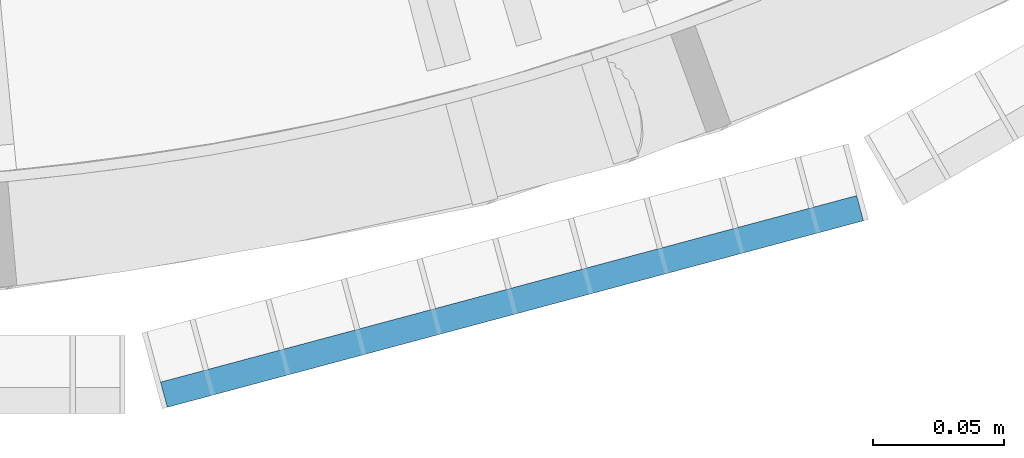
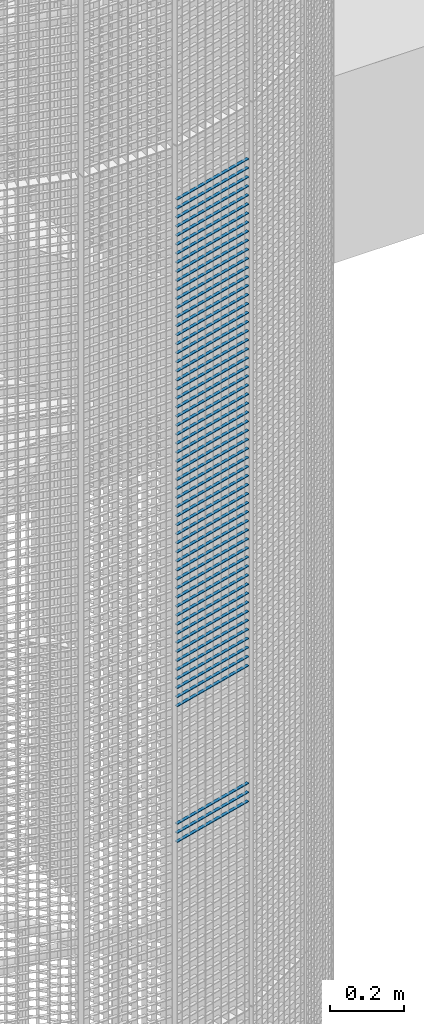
# One storey, part 396 of 1148: 60 beams, 1 element without a shape of its own.
"""IFC2X3 building model written with IfcOpenShell, lengths in millimetres."""

from ifc_helpers import new_model, si_unit, frame, origin_with_axes, origin_2d_with_axis, place, context, subcontext, project, spatial, rectangle, extrude, material, type_object, element, aggregate, save


model = new_model("IFC2X3")

# Units and contexts
model_context = context("Model", 3, precision=1e-05, world=origin_with_axes())
body_context = subcontext(model_context, "Body", "Model", "MODEL_VIEW")
ifc_project = project(units=[si_unit("LENGTHUNIT", "METRE", prefix="MILLI"), si_unit("AREAUNIT", "SQUARE_METRE"), si_unit("VOLUMEUNIT", "CUBIC_METRE"), si_unit("MASSUNIT", "GRAM", prefix="KILO"), si_unit("TIMEUNIT", "SECOND"), si_unit("PLANEANGLEUNIT", "RADIAN"), si_unit("SOLIDANGLEUNIT", "STERADIAN"), si_unit("THERMODYNAMICTEMPERATUREUNIT", "DEGREE_CELSIUS"), si_unit("LUMINOUSINTENSITYUNIT", "LUMEN")], contexts=[model_context])

# Site, building, storey
site_placement = place(None, origin_with_axes())
site = spatial("IfcSite", under=ifc_project, at=site_placement, Name="Undefined", CompositionType="ELEMENT")
building_placement = place(site_placement, origin_with_axes())
building = spatial("IfcBuilding", under=site, at=building_placement, Name="Undefined", CompositionType="ELEMENT")
storey_placement = place(building_placement, origin_with_axes())
storey = spatial("IfcBuildingStorey", under=building, at=storey_placement, Name="Undefined", CompositionType="ELEMENT", Elevation=0.0)

# Assembly, beams
assembly_placement = place(storey_placement, origin_with_axes())
assembly = element("IfcElementAssembly", 1, at=assembly_placement, inside=storey, Name="BORDURE", AssemblyPlace="NOTDEFINED", PredefinedType="NOTDEFINED")
ifc_material = material(Name="STEEL/S235JR")
beam_type = type_object("IfcBeamType", Name="PL2*10", PredefinedType="NOTDEFINED")
beam_1_placement = place(assembly_placement, frame((22021.4837339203, -1039.82309522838, 8820.0), z_axis=(0.258819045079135, -0.965925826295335, 0.0), x_axis=(-0.965925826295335, -0.258819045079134, 0.0)))
beam_1 = element("IfcBeam", 2, at=beam_1_placement, type_object=beam_type, material=ifc_material, Name="ENTRETOISE", context=body_context, shape_type="SweptSolid", body=[
    extrude(rectangle(XDim=2.0, YDim=10.0, at=origin_2d_with_axis()), frame((275.999999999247, 9.09494701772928e-13, 1.53210777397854e-14), z_axis=(-1.0, 0.0, 0.0), x_axis=(0.0, -1.0, 0.0)), (0.0, 0.0, 1.0), 276.0),
])
beam_2_placement = place(assembly_placement, frame((22021.4837339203, -1039.82309522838, 8790.0), z_axis=(0.258819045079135, -0.965925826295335, 0.0), x_axis=(-0.965925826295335, -0.258819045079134, 0.0)))
beam_2 = element("IfcBeam", 3, at=beam_2_placement, type_object=beam_type, material=ifc_material, Name="ENTRETOISE", context=body_context, shape_type="SweptSolid", body=[
    extrude(rectangle(XDim=2.0, YDim=10.0, at=origin_2d_with_axis()), frame((275.999999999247, 9.09494701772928e-13, 1.53210777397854e-14), z_axis=(-1.0, 0.0, 0.0), x_axis=(0.0, -1.0, 0.0)), (0.0, 0.0, 1.0), 276.0),
])
beam_3_placement = place(assembly_placement, frame((22021.4837339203, -1039.82309522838, 8760.0), z_axis=(0.258819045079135, -0.965925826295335, 0.0), x_axis=(-0.965925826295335, -0.258819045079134, 0.0)))
beam_3 = element("IfcBeam", 4, at=beam_3_placement, type_object=beam_type, material=ifc_material, Name="ENTRETOISE", context=body_context, shape_type="SweptSolid", body=[
    extrude(rectangle(XDim=2.0, YDim=10.0, at=origin_2d_with_axis()), frame((275.999999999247, 9.09494701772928e-13, 1.53210777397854e-14), z_axis=(-1.0, 0.0, 0.0), x_axis=(0.0, -1.0, 0.0)), (0.0, 0.0, 1.0), 276.0),
])
beam_4_placement = place(assembly_placement, frame((22021.4837339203, -1039.82309522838, 8730.0), z_axis=(0.258819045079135, -0.965925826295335, 0.0), x_axis=(-0.965925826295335, -0.258819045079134, 0.0)))
beam_4 = element("IfcBeam", 5, at=beam_4_placement, type_object=beam_type, material=ifc_material, Name="ENTRETOISE", context=body_context, shape_type="SweptSolid", body=[
    extrude(rectangle(XDim=2.0, YDim=10.0, at=origin_2d_with_axis()), frame((275.999999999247, 9.09494701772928e-13, 1.53210777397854e-14), z_axis=(-1.0, 0.0, 0.0), x_axis=(0.0, -1.0, 0.0)), (0.0, 0.0, 1.0), 276.0),
])
beam_5_placement = place(assembly_placement, frame((22021.4837339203, -1039.82309522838, 8700.0), z_axis=(0.258819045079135, -0.965925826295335, 0.0), x_axis=(-0.965925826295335, -0.258819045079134, 0.0)))
beam_5 = element("IfcBeam", 6, at=beam_5_placement, type_object=beam_type, material=ifc_material, Name="ENTRETOISE", context=body_context, shape_type="SweptSolid", body=[
    extrude(rectangle(XDim=2.0, YDim=10.0, at=origin_2d_with_axis()), frame((275.999999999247, 9.09494701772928e-13, 1.53210777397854e-14), z_axis=(-1.0, 0.0, 0.0), x_axis=(0.0, -1.0, 0.0)), (0.0, 0.0, 1.0), 276.0),
])
beam_6_placement = place(assembly_placement, frame((22021.4837339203, -1039.82309522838, 8670.0), z_axis=(0.258819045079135, -0.965925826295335, 0.0), x_axis=(-0.965925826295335, -0.258819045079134, 0.0)))
beam_6 = element("IfcBeam", 7, at=beam_6_placement, type_object=beam_type, material=ifc_material, Name="ENTRETOISE", context=body_context, shape_type="SweptSolid", body=[
    extrude(rectangle(XDim=2.0, YDim=10.0, at=origin_2d_with_axis()), frame((275.999999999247, 9.09494701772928e-13, 1.53210777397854e-14), z_axis=(-1.0, 0.0, 0.0), x_axis=(0.0, -1.0, 0.0)), (0.0, 0.0, 1.0), 276.0),
])
beam_7_placement = place(assembly_placement, frame((22021.4837339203, -1039.82309522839, 8640.0), z_axis=(0.258819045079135, -0.965925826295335, 0.0), x_axis=(-0.965925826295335, -0.258819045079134, 0.0)))
beam_7 = element("IfcBeam", 8, at=beam_7_placement, type_object=beam_type, material=ifc_material, Name="ENTRETOISE", context=body_context, shape_type="SweptSolid", body=[
    extrude(rectangle(XDim=2.0, YDim=10.0, at=origin_2d_with_axis()), frame((275.999999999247, 9.09494701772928e-13, 1.53210777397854e-14), z_axis=(-1.0, 0.0, 0.0), x_axis=(0.0, -1.0, 0.0)), (0.0, 0.0, 1.0), 276.0),
])
beam_8_placement = place(assembly_placement, frame((22021.4837339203, -1039.82309522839, 8610.0), z_axis=(0.258819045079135, -0.965925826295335, 0.0), x_axis=(-0.965925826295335, -0.258819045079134, 0.0)))
beam_8 = element("IfcBeam", 9, at=beam_8_placement, type_object=beam_type, material=ifc_material, Name="ENTRETOISE", context=body_context, shape_type="SweptSolid", body=[
    extrude(rectangle(XDim=2.0, YDim=10.0, at=origin_2d_with_axis()), frame((275.999999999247, 9.09494701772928e-13, 1.53210777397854e-14), z_axis=(-1.0, 0.0, 0.0), x_axis=(0.0, -1.0, 0.0)), (0.0, 0.0, 1.0), 276.0),
])
beam_9_placement = place(assembly_placement, frame((22021.4837339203, -1039.82309522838, 8580.0), z_axis=(0.258819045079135, -0.965925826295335, 0.0), x_axis=(-0.965925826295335, -0.258819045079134, 0.0)))
beam_9 = element("IfcBeam", 10, at=beam_9_placement, type_object=beam_type, material=ifc_material, Name="ENTRETOISE", context=body_context, shape_type="SweptSolid", body=[
    extrude(rectangle(XDim=2.0, YDim=10.0, at=origin_2d_with_axis()), frame((275.999999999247, 9.09494701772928e-13, 1.53210777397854e-14), z_axis=(-1.0, 0.0, 0.0), x_axis=(0.0, -1.0, 0.0)), (0.0, 0.0, 1.0), 276.0),
])
beam_10_placement = place(assembly_placement, frame((22021.4837339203, -1039.82309522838, 8550.0), z_axis=(0.258819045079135, -0.965925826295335, 0.0), x_axis=(-0.965925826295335, -0.258819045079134, 0.0)))
beam_10 = element("IfcBeam", 11, at=beam_10_placement, type_object=beam_type, material=ifc_material, Name="ENTRETOISE", context=body_context, shape_type="SweptSolid", body=[
    extrude(rectangle(XDim=2.0, YDim=10.0, at=origin_2d_with_axis()), frame((275.999999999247, 9.09494701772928e-13, 1.53210777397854e-14), z_axis=(-1.0, 0.0, 0.0), x_axis=(0.0, -1.0, 0.0)), (0.0, 0.0, 1.0), 276.0),
])
beam_11_placement = place(assembly_placement, frame((22021.4837339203, -1039.82309522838, 8520.0), z_axis=(0.258819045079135, -0.965925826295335, 0.0), x_axis=(-0.965925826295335, -0.258819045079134, 0.0)))
beam_11 = element("IfcBeam", 12, at=beam_11_placement, type_object=beam_type, material=ifc_material, Name="ENTRETOISE", context=body_context, shape_type="SweptSolid", body=[
    extrude(rectangle(XDim=2.0, YDim=10.0, at=origin_2d_with_axis()), frame((275.999999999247, 9.09494701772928e-13, 1.53210777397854e-14), z_axis=(-1.0, 0.0, 0.0), x_axis=(0.0, -1.0, 0.0)), (0.0, 0.0, 1.0), 276.0),
])
beam_12_placement = place(assembly_placement, frame((22021.4837339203, -1039.82309522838, 8490.0), z_axis=(0.258819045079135, -0.965925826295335, 0.0), x_axis=(-0.965925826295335, -0.258819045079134, 0.0)))
beam_12 = element("IfcBeam", 13, at=beam_12_placement, type_object=beam_type, material=ifc_material, Name="ENTRETOISE", context=body_context, shape_type="SweptSolid", body=[
    extrude(rectangle(XDim=2.0, YDim=10.0, at=origin_2d_with_axis()), frame((275.999999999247, 9.09494701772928e-13, 1.53210777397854e-14), z_axis=(-1.0, 0.0, 0.0), x_axis=(0.0, -1.0, 0.0)), (0.0, 0.0, 1.0), 276.0),
])
beam_13_placement = place(assembly_placement, frame((22021.4837339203, -1039.82309522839, 8460.0), z_axis=(0.258819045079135, -0.965925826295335, 0.0), x_axis=(-0.965925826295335, -0.258819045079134, 0.0)))
beam_13 = element("IfcBeam", 14, at=beam_13_placement, type_object=beam_type, material=ifc_material, Name="ENTRETOISE", context=body_context, shape_type="SweptSolid", body=[
    extrude(rectangle(XDim=2.0, YDim=10.0, at=origin_2d_with_axis()), frame((275.999999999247, 9.09494701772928e-13, 1.53210777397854e-14), z_axis=(-1.0, 0.0, 0.0), x_axis=(0.0, -1.0, 0.0)), (0.0, 0.0, 1.0), 276.0),
])
beam_14_placement = place(assembly_placement, frame((22021.4837339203, -1039.82309522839, 8430.0), z_axis=(0.258819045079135, -0.965925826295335, 0.0), x_axis=(-0.965925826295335, -0.258819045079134, 0.0)))
beam_14 = element("IfcBeam", 15, at=beam_14_placement, type_object=beam_type, material=ifc_material, Name="ENTRETOISE", context=body_context, shape_type="SweptSolid", body=[
    extrude(rectangle(XDim=2.0, YDim=10.0, at=origin_2d_with_axis()), frame((275.999999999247, 9.09494701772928e-13, 1.53210777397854e-14), z_axis=(-1.0, 0.0, 0.0), x_axis=(0.0, -1.0, 0.0)), (0.0, 0.0, 1.0), 276.0),
])
beam_15_placement = place(assembly_placement, frame((22021.4837339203, -1039.82309522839, 8400.0), z_axis=(0.258819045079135, -0.965925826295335, 0.0), x_axis=(-0.965925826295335, -0.258819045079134, 0.0)))
beam_15 = element("IfcBeam", 16, at=beam_15_placement, type_object=beam_type, material=ifc_material, Name="ENTRETOISE", context=body_context, shape_type="SweptSolid", body=[
    extrude(rectangle(XDim=2.0, YDim=10.0, at=origin_2d_with_axis()), frame((275.999999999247, 9.09494701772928e-13, 1.53210777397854e-14), z_axis=(-1.0, 0.0, 0.0), x_axis=(0.0, -1.0, 0.0)), (0.0, 0.0, 1.0), 276.0),
])
beam_16_placement = place(assembly_placement, frame((22021.4837339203, -1039.82309522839, 8370.0), z_axis=(0.258819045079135, -0.965925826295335, 0.0), x_axis=(-0.965925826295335, -0.258819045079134, 0.0)))
beam_16 = element("IfcBeam", 17, at=beam_16_placement, type_object=beam_type, material=ifc_material, Name="ENTRETOISE", context=body_context, shape_type="SweptSolid", body=[
    extrude(rectangle(XDim=2.0, YDim=10.0, at=origin_2d_with_axis()), frame((275.999999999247, 9.09494701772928e-13, 1.53210777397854e-14), z_axis=(-1.0, 0.0, 0.0), x_axis=(0.0, -1.0, 0.0)), (0.0, 0.0, 1.0), 276.0),
])
beam_17_placement = place(assembly_placement, frame((22021.4837339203, -1039.82309522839, 8340.0), z_axis=(0.258819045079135, -0.965925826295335, 0.0), x_axis=(-0.965925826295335, -0.258819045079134, 0.0)))
beam_17 = element("IfcBeam", 18, at=beam_17_placement, type_object=beam_type, material=ifc_material, Name="ENTRETOISE", context=body_context, shape_type="SweptSolid", body=[
    extrude(rectangle(XDim=2.0, YDim=10.0, at=origin_2d_with_axis()), frame((275.999999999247, 9.09494701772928e-13, 1.53210777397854e-14), z_axis=(-1.0, 0.0, 0.0), x_axis=(0.0, -1.0, 0.0)), (0.0, 0.0, 1.0), 276.0),
])
beam_18_placement = place(assembly_placement, frame((22021.4837339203, -1039.82309522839, 8310.0), z_axis=(0.258819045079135, -0.965925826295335, 0.0), x_axis=(-0.965925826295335, -0.258819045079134, 0.0)))
beam_18 = element("IfcBeam", 19, at=beam_18_placement, type_object=beam_type, material=ifc_material, Name="ENTRETOISE", context=body_context, shape_type="SweptSolid", body=[
    extrude(rectangle(XDim=2.0, YDim=10.0, at=origin_2d_with_axis()), frame((275.999999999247, 9.09494701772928e-13, 1.53210777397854e-14), z_axis=(-1.0, 0.0, 0.0), x_axis=(0.0, -1.0, 0.0)), (0.0, 0.0, 1.0), 276.0),
])
beam_19_placement = place(assembly_placement, frame((22021.4837339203, -1039.82309522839, 8280.0), z_axis=(0.258819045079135, -0.965925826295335, 0.0), x_axis=(-0.965925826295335, -0.258819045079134, 0.0)))
beam_19 = element("IfcBeam", 20, at=beam_19_placement, type_object=beam_type, material=ifc_material, Name="ENTRETOISE", context=body_context, shape_type="SweptSolid", body=[
    extrude(rectangle(XDim=2.0, YDim=10.0, at=origin_2d_with_axis()), frame((275.999999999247, 9.09494701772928e-13, 1.53210777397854e-14), z_axis=(-1.0, 0.0, 0.0), x_axis=(0.0, -1.0, 0.0)), (0.0, 0.0, 1.0), 276.0),
])
beam_20_placement = place(assembly_placement, frame((22021.4837339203, -1039.82309522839, 8250.0), z_axis=(0.258819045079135, -0.965925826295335, 0.0), x_axis=(-0.965925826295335, -0.258819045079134, 0.0)))
beam_20 = element("IfcBeam", 21, at=beam_20_placement, type_object=beam_type, material=ifc_material, Name="ENTRETOISE", context=body_context, shape_type="SweptSolid", body=[
    extrude(rectangle(XDim=2.0, YDim=10.0, at=origin_2d_with_axis()), frame((275.999999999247, 9.09494701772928e-13, 1.53210777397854e-14), z_axis=(-1.0, 0.0, 0.0), x_axis=(0.0, -1.0, 0.0)), (0.0, 0.0, 1.0), 276.0),
])
beam_21_placement = place(assembly_placement, frame((22021.4837339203, -1039.82309522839, 8220.0), z_axis=(0.258819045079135, -0.965925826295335, 0.0), x_axis=(-0.965925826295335, -0.258819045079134, 0.0)))
beam_21 = element("IfcBeam", 22, at=beam_21_placement, type_object=beam_type, material=ifc_material, Name="ENTRETOISE", context=body_context, shape_type="SweptSolid", body=[
    extrude(rectangle(XDim=2.0, YDim=10.0, at=origin_2d_with_axis()), frame((275.999999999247, 9.09494701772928e-13, 1.53210777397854e-14), z_axis=(-1.0, 0.0, 0.0), x_axis=(0.0, -1.0, 0.0)), (0.0, 0.0, 1.0), 276.0),
])
beam_22_placement = place(assembly_placement, frame((22021.4837339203, -1039.82309522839, 8190.0), z_axis=(0.258819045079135, -0.965925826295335, 0.0), x_axis=(-0.965925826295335, -0.258819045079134, 0.0)))
beam_22 = element("IfcBeam", 23, at=beam_22_placement, type_object=beam_type, material=ifc_material, Name="ENTRETOISE", context=body_context, shape_type="SweptSolid", body=[
    extrude(rectangle(XDim=2.0, YDim=10.0, at=origin_2d_with_axis()), frame((275.999999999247, 9.09494701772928e-13, 1.53210777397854e-14), z_axis=(-1.0, 0.0, 0.0), x_axis=(0.0, -1.0, 0.0)), (0.0, 0.0, 1.0), 276.0),
])
beam_23_placement = place(assembly_placement, frame((22021.4837339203, -1039.82309522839, 8160.0), z_axis=(0.258819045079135, -0.965925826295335, 0.0), x_axis=(-0.965925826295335, -0.258819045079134, 0.0)))
beam_23 = element("IfcBeam", 24, at=beam_23_placement, type_object=beam_type, material=ifc_material, Name="ENTRETOISE", context=body_context, shape_type="SweptSolid", body=[
    extrude(rectangle(XDim=2.0, YDim=10.0, at=origin_2d_with_axis()), frame((275.999999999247, 9.09494701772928e-13, 1.53210777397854e-14), z_axis=(-1.0, 0.0, 0.0), x_axis=(0.0, -1.0, 0.0)), (0.0, 0.0, 1.0), 276.0),
])
beam_24_placement = place(assembly_placement, frame((22021.4837339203, -1039.82309522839, 8130.0), z_axis=(0.258819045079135, -0.965925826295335, 0.0), x_axis=(-0.965925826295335, -0.258819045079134, 0.0)))
beam_24 = element("IfcBeam", 25, at=beam_24_placement, type_object=beam_type, material=ifc_material, Name="ENTRETOISE", context=body_context, shape_type="SweptSolid", body=[
    extrude(rectangle(XDim=2.0, YDim=10.0, at=origin_2d_with_axis()), frame((275.999999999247, 9.09494701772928e-13, 1.53210777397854e-14), z_axis=(-1.0, 0.0, 0.0), x_axis=(0.0, -1.0, 0.0)), (0.0, 0.0, 1.0), 276.0),
])
beam_25_placement = place(assembly_placement, frame((22021.4837339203, -1039.82309522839, 8100.0), z_axis=(0.258819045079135, -0.965925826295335, 0.0), x_axis=(-0.965925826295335, -0.258819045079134, 0.0)))
beam_25 = element("IfcBeam", 26, at=beam_25_placement, type_object=beam_type, material=ifc_material, Name="ENTRETOISE", context=body_context, shape_type="SweptSolid", body=[
    extrude(rectangle(XDim=2.0, YDim=10.0, at=origin_2d_with_axis()), frame((275.999999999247, 9.09494701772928e-13, 1.53210777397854e-14), z_axis=(-1.0, 0.0, 0.0), x_axis=(0.0, -1.0, 0.0)), (0.0, 0.0, 1.0), 276.0),
])
beam_26_placement = place(assembly_placement, frame((22021.4837339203, -1039.82309522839, 8070.0), z_axis=(0.258819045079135, -0.965925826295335, 0.0), x_axis=(-0.965925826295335, -0.258819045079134, 0.0)))
beam_26 = element("IfcBeam", 27, at=beam_26_placement, type_object=beam_type, material=ifc_material, Name="ENTRETOISE", context=body_context, shape_type="SweptSolid", body=[
    extrude(rectangle(XDim=2.0, YDim=10.0, at=origin_2d_with_axis()), frame((275.999999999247, 9.09494701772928e-13, 1.53210777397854e-14), z_axis=(-1.0, 0.0, 0.0), x_axis=(0.0, -1.0, 0.0)), (0.0, 0.0, 1.0), 276.0),
])
beam_27_placement = place(assembly_placement, frame((22021.4837339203, -1039.82309522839, 8040.0), z_axis=(0.258819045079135, -0.965925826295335, 0.0), x_axis=(-0.965925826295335, -0.258819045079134, 0.0)))
beam_27 = element("IfcBeam", 28, at=beam_27_placement, type_object=beam_type, material=ifc_material, Name="ENTRETOISE", context=body_context, shape_type="SweptSolid", body=[
    extrude(rectangle(XDim=2.0, YDim=10.0, at=origin_2d_with_axis()), frame((275.999999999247, 9.09494701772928e-13, 1.53210777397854e-14), z_axis=(-1.0, 0.0, 0.0), x_axis=(0.0, -1.0, 0.0)), (0.0, 0.0, 1.0), 276.0),
])
beam_28_placement = place(assembly_placement, frame((22021.4837339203, -1039.82309522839, 8010.0), z_axis=(0.258819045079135, -0.965925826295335, 0.0), x_axis=(-0.965925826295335, -0.258819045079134, 0.0)))
beam_28 = element("IfcBeam", 29, at=beam_28_placement, type_object=beam_type, material=ifc_material, Name="ENTRETOISE", context=body_context, shape_type="SweptSolid", body=[
    extrude(rectangle(XDim=2.0, YDim=10.0, at=origin_2d_with_axis()), frame((275.999999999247, 9.09494701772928e-13, 1.53210777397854e-14), z_axis=(-1.0, 0.0, 0.0), x_axis=(0.0, -1.0, 0.0)), (0.0, 0.0, 1.0), 276.0),
])
beam_29_placement = place(assembly_placement, frame((22021.4837339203, -1039.82309522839, 7980.0), z_axis=(0.258819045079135, -0.965925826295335, 0.0), x_axis=(-0.965925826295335, -0.258819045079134, 0.0)))
beam_29 = element("IfcBeam", 30, at=beam_29_placement, type_object=beam_type, material=ifc_material, Name="ENTRETOISE", context=body_context, shape_type="SweptSolid", body=[
    extrude(rectangle(XDim=2.0, YDim=10.0, at=origin_2d_with_axis()), frame((275.999999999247, 9.09494701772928e-13, 1.53210777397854e-14), z_axis=(-1.0, 0.0, 0.0), x_axis=(0.0, -1.0, 0.0)), (0.0, 0.0, 1.0), 276.0),
])
beam_30_placement = place(assembly_placement, frame((22021.4837339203, -1039.82309522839, 7950.0), z_axis=(0.258819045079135, -0.965925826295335, 0.0), x_axis=(-0.965925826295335, -0.258819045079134, 0.0)))
beam_30 = element("IfcBeam", 31, at=beam_30_placement, type_object=beam_type, material=ifc_material, Name="ENTRETOISE", context=body_context, shape_type="SweptSolid", body=[
    extrude(rectangle(XDim=2.0, YDim=10.0, at=origin_2d_with_axis()), frame((275.999999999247, 9.09494701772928e-13, 1.53210777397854e-14), z_axis=(-1.0, 0.0, 0.0), x_axis=(0.0, -1.0, 0.0)), (0.0, 0.0, 1.0), 276.0),
])
beam_31_placement = place(assembly_placement, frame((22021.4837339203, -1039.82309522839, 7920.0), z_axis=(0.258819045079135, -0.965925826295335, 0.0), x_axis=(-0.965925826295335, -0.258819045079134, 0.0)))
beam_31 = element("IfcBeam", 32, at=beam_31_placement, type_object=beam_type, material=ifc_material, Name="ENTRETOISE", context=body_context, shape_type="SweptSolid", body=[
    extrude(rectangle(XDim=2.0, YDim=10.0, at=origin_2d_with_axis()), frame((275.999999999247, 9.09494701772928e-13, 1.53210777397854e-14), z_axis=(-1.0, 0.0, 0.0), x_axis=(0.0, -1.0, 0.0)), (0.0, 0.0, 1.0), 276.0),
])
beam_32_placement = place(assembly_placement, frame((22021.4837339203, -1039.82309522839, 7890.0), z_axis=(0.258819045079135, -0.965925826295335, 0.0), x_axis=(-0.965925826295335, -0.258819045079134, 0.0)))
beam_32 = element("IfcBeam", 33, at=beam_32_placement, type_object=beam_type, material=ifc_material, Name="ENTRETOISE", context=body_context, shape_type="SweptSolid", body=[
    extrude(rectangle(XDim=2.0, YDim=10.0, at=origin_2d_with_axis()), frame((275.999999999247, 9.09494701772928e-13, 1.53210777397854e-14), z_axis=(-1.0, 0.0, 0.0), x_axis=(0.0, -1.0, 0.0)), (0.0, 0.0, 1.0), 276.0),
])
beam_33_placement = place(assembly_placement, frame((22021.4837339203, -1039.82309522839, 7860.0), z_axis=(0.258819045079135, -0.965925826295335, 0.0), x_axis=(-0.965925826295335, -0.258819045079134, 0.0)))
beam_33 = element("IfcBeam", 34, at=beam_33_placement, type_object=beam_type, material=ifc_material, Name="ENTRETOISE", context=body_context, shape_type="SweptSolid", body=[
    extrude(rectangle(XDim=2.0, YDim=10.0, at=origin_2d_with_axis()), frame((275.999999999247, 9.09494701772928e-13, 1.53210777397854e-14), z_axis=(-1.0, 0.0, 0.0), x_axis=(0.0, -1.0, 0.0)), (0.0, 0.0, 1.0), 276.0),
])
beam_34_placement = place(assembly_placement, frame((22021.4837339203, -1039.82309522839, 7830.0), z_axis=(0.258819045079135, -0.965925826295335, 0.0), x_axis=(-0.965925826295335, -0.258819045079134, 0.0)))
beam_34 = element("IfcBeam", 35, at=beam_34_placement, type_object=beam_type, material=ifc_material, Name="ENTRETOISE", context=body_context, shape_type="SweptSolid", body=[
    extrude(rectangle(XDim=2.0, YDim=10.0, at=origin_2d_with_axis()), frame((275.999999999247, 9.09494701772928e-13, 1.53210777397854e-14), z_axis=(-1.0, 0.0, 0.0), x_axis=(0.0, -1.0, 0.0)), (0.0, 0.0, 1.0), 276.0),
])
beam_35_placement = place(assembly_placement, frame((22021.4837339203, -1039.82309522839, 7800.0), z_axis=(0.258819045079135, -0.965925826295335, 0.0), x_axis=(-0.965925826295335, -0.258819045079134, 0.0)))
beam_35 = element("IfcBeam", 36, at=beam_35_placement, type_object=beam_type, material=ifc_material, Name="ENTRETOISE", context=body_context, shape_type="SweptSolid", body=[
    extrude(rectangle(XDim=2.0, YDim=10.0, at=origin_2d_with_axis()), frame((275.999999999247, 9.09494701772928e-13, 1.53210777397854e-14), z_axis=(-1.0, 0.0, 0.0), x_axis=(0.0, -1.0, 0.0)), (0.0, 0.0, 1.0), 276.0),
])
beam_36_placement = place(assembly_placement, frame((22021.4837339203, -1039.82309522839, 7770.0), z_axis=(0.258819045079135, -0.965925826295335, 0.0), x_axis=(-0.965925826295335, -0.258819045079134, 0.0)))
beam_36 = element("IfcBeam", 37, at=beam_36_placement, type_object=beam_type, material=ifc_material, Name="ENTRETOISE", context=body_context, shape_type="SweptSolid", body=[
    extrude(rectangle(XDim=2.0, YDim=10.0, at=origin_2d_with_axis()), frame((275.999999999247, 9.09494701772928e-13, 1.53210777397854e-14), z_axis=(-1.0, 0.0, 0.0), x_axis=(0.0, -1.0, 0.0)), (0.0, 0.0, 1.0), 276.0),
])
beam_37_placement = place(assembly_placement, frame((22021.4837339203, -1039.82309522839, 7740.0), z_axis=(0.258819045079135, -0.965925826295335, 0.0), x_axis=(-0.965925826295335, -0.258819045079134, 0.0)))
beam_37 = element("IfcBeam", 38, at=beam_37_placement, type_object=beam_type, material=ifc_material, Name="ENTRETOISE", context=body_context, shape_type="SweptSolid", body=[
    extrude(rectangle(XDim=2.0, YDim=10.0, at=origin_2d_with_axis()), frame((275.999999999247, 9.09494701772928e-13, 1.53210777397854e-14), z_axis=(-1.0, 0.0, 0.0), x_axis=(0.0, -1.0, 0.0)), (0.0, 0.0, 1.0), 276.0),
])
beam_38_placement = place(assembly_placement, frame((22021.4837339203, -1039.82309522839, 7710.0), z_axis=(0.258819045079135, -0.965925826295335, 0.0), x_axis=(-0.965925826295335, -0.258819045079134, 0.0)))
beam_38 = element("IfcBeam", 39, at=beam_38_placement, type_object=beam_type, material=ifc_material, Name="ENTRETOISE", context=body_context, shape_type="SweptSolid", body=[
    extrude(rectangle(XDim=2.0, YDim=10.0, at=origin_2d_with_axis()), frame((275.999999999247, 9.09494701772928e-13, 1.53210777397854e-14), z_axis=(-1.0, 0.0, 0.0), x_axis=(0.0, -1.0, 0.0)), (0.0, 0.0, 1.0), 276.0),
])
beam_39_placement = place(assembly_placement, frame((22021.4837339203, -1039.82309522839, 7680.0), z_axis=(0.258819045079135, -0.965925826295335, 0.0), x_axis=(-0.965925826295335, -0.258819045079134, 0.0)))
beam_39 = element("IfcBeam", 40, at=beam_39_placement, type_object=beam_type, material=ifc_material, Name="ENTRETOISE", context=body_context, shape_type="SweptSolid", body=[
    extrude(rectangle(XDim=2.0, YDim=10.0, at=origin_2d_with_axis()), frame((275.999999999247, 9.09494701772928e-13, 1.53210777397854e-14), z_axis=(-1.0, 0.0, 0.0), x_axis=(0.0, -1.0, 0.0)), (0.0, 0.0, 1.0), 276.0),
])
beam_40_placement = place(assembly_placement, frame((22021.4837339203, -1039.82309522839, 7650.0), z_axis=(0.258819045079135, -0.965925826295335, 0.0), x_axis=(-0.965925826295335, -0.258819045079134, 0.0)))
beam_40 = element("IfcBeam", 41, at=beam_40_placement, type_object=beam_type, material=ifc_material, Name="ENTRETOISE", context=body_context, shape_type="SweptSolid", body=[
    extrude(rectangle(XDim=2.0, YDim=10.0, at=origin_2d_with_axis()), frame((275.999999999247, 9.09494701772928e-13, 1.53210777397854e-14), z_axis=(-1.0, 0.0, 0.0), x_axis=(0.0, -1.0, 0.0)), (0.0, 0.0, 1.0), 276.0),
])
beam_41_placement = place(assembly_placement, frame((22021.4837339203, -1039.82309522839, 7620.0), z_axis=(0.258819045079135, -0.965925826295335, 0.0), x_axis=(-0.965925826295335, -0.258819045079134, 0.0)))
beam_41 = element("IfcBeam", 42, at=beam_41_placement, type_object=beam_type, material=ifc_material, Name="ENTRETOISE", context=body_context, shape_type="SweptSolid", body=[
    extrude(rectangle(XDim=2.0, YDim=10.0, at=origin_2d_with_axis()), frame((275.999999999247, 9.09494701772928e-13, 1.53210777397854e-14), z_axis=(-1.0, 0.0, 0.0), x_axis=(0.0, -1.0, 0.0)), (0.0, 0.0, 1.0), 276.0),
])
beam_42_placement = place(assembly_placement, frame((22021.4837339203, -1039.82309522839, 7590.0), z_axis=(0.258819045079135, -0.965925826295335, 0.0), x_axis=(-0.965925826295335, -0.258819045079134, 0.0)))
beam_42 = element("IfcBeam", 43, at=beam_42_placement, type_object=beam_type, material=ifc_material, Name="ENTRETOISE", context=body_context, shape_type="SweptSolid", body=[
    extrude(rectangle(XDim=2.0, YDim=10.0, at=origin_2d_with_axis()), frame((275.999999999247, 9.09494701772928e-13, 1.53210777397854e-14), z_axis=(-1.0, 0.0, 0.0), x_axis=(0.0, -1.0, 0.0)), (0.0, 0.0, 1.0), 276.0),
])
beam_43_placement = place(assembly_placement, frame((22021.4837339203, -1039.82309522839, 7560.0), z_axis=(0.258819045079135, -0.965925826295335, 0.0), x_axis=(-0.965925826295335, -0.258819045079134, 0.0)))
beam_43 = element("IfcBeam", 44, at=beam_43_placement, type_object=beam_type, material=ifc_material, Name="ENTRETOISE", context=body_context, shape_type="SweptSolid", body=[
    extrude(rectangle(XDim=2.0, YDim=10.0, at=origin_2d_with_axis()), frame((275.999999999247, 9.09494701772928e-13, 1.53210777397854e-14), z_axis=(-1.0, 0.0, 0.0), x_axis=(0.0, -1.0, 0.0)), (0.0, 0.0, 1.0), 276.0),
])
beam_44_placement = place(assembly_placement, frame((22021.4837339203, -1039.82309522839, 7530.0), z_axis=(0.258819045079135, -0.965925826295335, 0.0), x_axis=(-0.965925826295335, -0.258819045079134, 0.0)))
beam_44 = element("IfcBeam", 45, at=beam_44_placement, type_object=beam_type, material=ifc_material, Name="ENTRETOISE", context=body_context, shape_type="SweptSolid", body=[
    extrude(rectangle(XDim=2.0, YDim=10.0, at=origin_2d_with_axis()), frame((275.999999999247, 9.09494701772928e-13, 1.53210777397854e-14), z_axis=(-1.0, 0.0, 0.0), x_axis=(0.0, -1.0, 0.0)), (0.0, 0.0, 1.0), 276.0),
])
beam_45_placement = place(assembly_placement, frame((22021.4837339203, -1039.82309522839, 7500.0), z_axis=(0.258819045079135, -0.965925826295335, 0.0), x_axis=(-0.965925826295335, -0.258819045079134, 0.0)))
beam_45 = element("IfcBeam", 46, at=beam_45_placement, type_object=beam_type, material=ifc_material, Name="ENTRETOISE", context=body_context, shape_type="SweptSolid", body=[
    extrude(rectangle(XDim=2.0, YDim=10.0, at=origin_2d_with_axis()), frame((275.999999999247, 9.09494701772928e-13, 1.53210777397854e-14), z_axis=(-1.0, 0.0, 0.0), x_axis=(0.0, -1.0, 0.0)), (0.0, 0.0, 1.0), 276.0),
])
beam_46_placement = place(assembly_placement, frame((22021.4837339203, -1039.82309522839, 7470.0), z_axis=(0.258819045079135, -0.965925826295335, 0.0), x_axis=(-0.965925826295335, -0.258819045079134, 0.0)))
beam_46 = element("IfcBeam", 47, at=beam_46_placement, type_object=beam_type, material=ifc_material, Name="ENTRETOISE", context=body_context, shape_type="SweptSolid", body=[
    extrude(rectangle(XDim=2.0, YDim=10.0, at=origin_2d_with_axis()), frame((275.999999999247, 9.09494701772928e-13, 1.53210777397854e-14), z_axis=(-1.0, 0.0, 0.0), x_axis=(0.0, -1.0, 0.0)), (0.0, 0.0, 1.0), 276.0),
])
beam_47_placement = place(assembly_placement, frame((22021.4837339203, -1039.82309522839, 7440.0), z_axis=(0.258819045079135, -0.965925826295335, 0.0), x_axis=(-0.965925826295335, -0.258819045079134, 0.0)))
beam_47 = element("IfcBeam", 48, at=beam_47_placement, type_object=beam_type, material=ifc_material, Name="ENTRETOISE", context=body_context, shape_type="SweptSolid", body=[
    extrude(rectangle(XDim=2.0, YDim=10.0, at=origin_2d_with_axis()), frame((275.999999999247, 9.09494701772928e-13, 1.53210777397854e-14), z_axis=(-1.0, 0.0, 0.0), x_axis=(0.0, -1.0, 0.0)), (0.0, 0.0, 1.0), 276.0),
])
beam_48_placement = place(assembly_placement, frame((22021.4837339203, -1039.82309522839, 7410.0), z_axis=(0.258819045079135, -0.965925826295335, 0.0), x_axis=(-0.965925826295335, -0.258819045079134, 0.0)))
beam_48 = element("IfcBeam", 49, at=beam_48_placement, type_object=beam_type, material=ifc_material, Name="ENTRETOISE", context=body_context, shape_type="SweptSolid", body=[
    extrude(rectangle(XDim=2.0, YDim=10.0, at=origin_2d_with_axis()), frame((275.999999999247, 9.09494701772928e-13, 1.53210777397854e-14), z_axis=(-1.0, 0.0, 0.0), x_axis=(0.0, -1.0, 0.0)), (0.0, 0.0, 1.0), 276.0),
])
beam_49_placement = place(assembly_placement, frame((22021.4837339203, -1039.82309522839, 7380.0), z_axis=(0.258819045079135, -0.965925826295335, 0.0), x_axis=(-0.965925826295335, -0.258819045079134, 0.0)))
beam_49 = element("IfcBeam", 50, at=beam_49_placement, type_object=beam_type, material=ifc_material, Name="ENTRETOISE", context=body_context, shape_type="SweptSolid", body=[
    extrude(rectangle(XDim=2.0, YDim=10.0, at=origin_2d_with_axis()), frame((275.999999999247, 9.09494701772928e-13, 1.53210777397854e-14), z_axis=(-1.0, 0.0, 0.0), x_axis=(0.0, -1.0, 0.0)), (0.0, 0.0, 1.0), 276.0),
])
beam_50_placement = place(assembly_placement, frame((22021.4837339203, -1039.82309522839, 7350.0), z_axis=(0.258819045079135, -0.965925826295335, 0.0), x_axis=(-0.965925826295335, -0.258819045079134, 0.0)))
beam_50 = element("IfcBeam", 51, at=beam_50_placement, type_object=beam_type, material=ifc_material, Name="ENTRETOISE", context=body_context, shape_type="SweptSolid", body=[
    extrude(rectangle(XDim=2.0, YDim=10.0, at=origin_2d_with_axis()), frame((275.999999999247, 9.09494701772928e-13, 1.53210777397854e-14), z_axis=(-1.0, 0.0, 0.0), x_axis=(0.0, -1.0, 0.0)), (0.0, 0.0, 1.0), 276.0),
])
beam_51_placement = place(assembly_placement, frame((22021.4837339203, -1039.82309522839, 7320.0), z_axis=(0.258819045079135, -0.965925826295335, 0.0), x_axis=(-0.965925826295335, -0.258819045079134, 0.0)))
beam_51 = element("IfcBeam", 52, at=beam_51_placement, type_object=beam_type, material=ifc_material, Name="ENTRETOISE", context=body_context, shape_type="SweptSolid", body=[
    extrude(rectangle(XDim=2.0, YDim=10.0, at=origin_2d_with_axis()), frame((275.999999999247, 9.09494701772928e-13, 1.53210777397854e-14), z_axis=(-1.0, 0.0, 0.0), x_axis=(0.0, -1.0, 0.0)), (0.0, 0.0, 1.0), 276.0),
])
beam_52_placement = place(assembly_placement, frame((22021.4837339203, -1039.82309522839, 7290.0), z_axis=(0.258819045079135, -0.965925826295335, 0.0), x_axis=(-0.965925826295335, -0.258819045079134, 0.0)))
beam_52 = element("IfcBeam", 53, at=beam_52_placement, type_object=beam_type, material=ifc_material, Name="ENTRETOISE", context=body_context, shape_type="SweptSolid", body=[
    extrude(rectangle(XDim=2.0, YDim=10.0, at=origin_2d_with_axis()), frame((275.999999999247, 9.09494701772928e-13, 1.53210777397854e-14), z_axis=(-1.0, 0.0, 0.0), x_axis=(0.0, -1.0, 0.0)), (0.0, 0.0, 1.0), 276.0),
])
beam_53_placement = place(assembly_placement, frame((22021.4837339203, -1039.82309522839, 7260.0), z_axis=(0.258819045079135, -0.965925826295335, 0.0), x_axis=(-0.965925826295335, -0.258819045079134, 0.0)))
beam_53 = element("IfcBeam", 54, at=beam_53_placement, type_object=beam_type, material=ifc_material, Name="ENTRETOISE", context=body_context, shape_type="SweptSolid", body=[
    extrude(rectangle(XDim=2.0, YDim=10.0, at=origin_2d_with_axis()), frame((275.999999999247, 9.09494701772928e-13, 1.53210777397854e-14), z_axis=(-1.0, 0.0, 0.0), x_axis=(0.0, -1.0, 0.0)), (0.0, 0.0, 1.0), 276.0),
])
beam_54_placement = place(assembly_placement, frame((22021.4837339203, -1039.82309522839, 7230.0), z_axis=(0.258819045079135, -0.965925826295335, 0.0), x_axis=(-0.965925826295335, -0.258819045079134, 0.0)))
beam_54 = element("IfcBeam", 55, at=beam_54_placement, type_object=beam_type, material=ifc_material, Name="ENTRETOISE", context=body_context, shape_type="SweptSolid", body=[
    extrude(rectangle(XDim=2.0, YDim=10.0, at=origin_2d_with_axis()), frame((275.999999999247, 9.09494701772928e-13, 1.53210777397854e-14), z_axis=(-1.0, 0.0, 0.0), x_axis=(0.0, -1.0, 0.0)), (0.0, 0.0, 1.0), 276.0),
])
beam_55_placement = place(assembly_placement, frame((22021.4837339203, -1039.82309522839, 7200.0), z_axis=(0.258819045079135, -0.965925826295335, 0.0), x_axis=(-0.965925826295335, -0.258819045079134, 0.0)))
beam_55 = element("IfcBeam", 56, at=beam_55_placement, type_object=beam_type, material=ifc_material, Name="ENTRETOISE", context=body_context, shape_type="SweptSolid", body=[
    extrude(rectangle(XDim=2.0, YDim=10.0, at=origin_2d_with_axis()), frame((275.999999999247, 9.09494701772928e-13, 1.53210777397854e-14), z_axis=(-1.0, 0.0, 0.0), x_axis=(0.0, -1.0, 0.0)), (0.0, 0.0, 1.0), 276.0),
])
beam_56_placement = place(assembly_placement, frame((22021.4837339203, -1039.82309522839, 7170.0), z_axis=(0.258819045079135, -0.965925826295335, 0.0), x_axis=(-0.965925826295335, -0.258819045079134, 0.0)))
beam_56 = element("IfcBeam", 57, at=beam_56_placement, type_object=beam_type, material=ifc_material, Name="ENTRETOISE", context=body_context, shape_type="SweptSolid", body=[
    extrude(rectangle(XDim=2.0, YDim=10.0, at=origin_2d_with_axis()), frame((275.999999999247, 9.09494701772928e-13, 1.53210777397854e-14), z_axis=(-1.0, 0.0, 0.0), x_axis=(0.0, -1.0, 0.0)), (0.0, 0.0, 1.0), 276.0),
])
beam_57_placement = place(assembly_placement, frame((22021.4837339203, -1039.82309522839, 7140.0), z_axis=(0.258819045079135, -0.965925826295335, 0.0), x_axis=(-0.965925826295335, -0.258819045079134, 0.0)))
beam_57 = element("IfcBeam", 58, at=beam_57_placement, type_object=beam_type, material=ifc_material, Name="ENTRETOISE", context=body_context, shape_type="SweptSolid", body=[
    extrude(rectangle(XDim=2.0, YDim=10.0, at=origin_2d_with_axis()), frame((275.999999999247, 9.09494701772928e-13, 1.53210777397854e-14), z_axis=(-1.0, 0.0, 0.0), x_axis=(0.0, -1.0, 0.0)), (0.0, 0.0, 1.0), 276.0),
])
beam_58_placement = place(assembly_placement, frame((22021.4837339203, -1039.82309522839, 6720.0), z_axis=(0.258819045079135, -0.965925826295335, 0.0), x_axis=(-0.965925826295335, -0.258819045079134, 0.0)))
beam_58 = element("IfcBeam", 59, at=beam_58_placement, type_object=beam_type, material=ifc_material, Name="ENTRETOISE", context=body_context, shape_type="SweptSolid", body=[
    extrude(rectangle(XDim=2.0, YDim=10.0, at=origin_2d_with_axis()), frame((275.999999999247, 9.09494701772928e-13, 1.53210777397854e-14), z_axis=(-1.0, 0.0, 0.0), x_axis=(0.0, -1.0, 0.0)), (0.0, 0.0, 1.0), 276.0),
])
beam_59_placement = place(assembly_placement, frame((22021.4837339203, -1039.82309522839, 6690.0), z_axis=(0.258819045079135, -0.965925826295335, 0.0), x_axis=(-0.965925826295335, -0.258819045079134, 0.0)))
beam_59 = element("IfcBeam", 60, at=beam_59_placement, type_object=beam_type, material=ifc_material, Name="ENTRETOISE", context=body_context, shape_type="SweptSolid", body=[
    extrude(rectangle(XDim=2.0, YDim=10.0, at=origin_2d_with_axis()), frame((275.999999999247, 9.09494701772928e-13, 1.53210777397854e-14), z_axis=(-1.0, 0.0, 0.0), x_axis=(0.0, -1.0, 0.0)), (0.0, 0.0, 1.0), 276.0),
])
beam_60_placement = place(assembly_placement, frame((22021.4837339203, -1039.82309522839, 6750.0), z_axis=(0.258819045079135, -0.965925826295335, 0.0), x_axis=(-0.965925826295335, -0.258819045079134, 0.0)))
beam_60 = element("IfcBeam", 61, at=beam_60_placement, type_object=beam_type, material=ifc_material, Name="ENTRETOISE", context=body_context, shape_type="SweptSolid", body=[
    extrude(rectangle(XDim=2.0, YDim=10.0, at=origin_2d_with_axis()), frame((275.999999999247, 9.09494701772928e-13, 1.53210777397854e-14), z_axis=(-1.0, 0.0, 0.0), x_axis=(0.0, -1.0, 0.0)), (0.0, 0.0, 1.0), 276.0),
])
aggregate(assembly, [beam_1, beam_2, beam_3, beam_4, beam_5, beam_6, beam_7, beam_8, beam_9, beam_10, beam_11, beam_12, beam_13, beam_14, beam_15, beam_16, beam_17, beam_18, beam_19, beam_20, beam_21, beam_22, beam_23, beam_24, beam_25, beam_26, beam_27, beam_28, beam_29, beam_30, beam_31, beam_32, beam_33, beam_34, beam_35, beam_36, beam_37, beam_38, beam_39, beam_40, beam_41, beam_42, beam_43, beam_44, beam_45, beam_46, beam_47, beam_48, beam_49, beam_50, beam_51, beam_52, beam_53, beam_54, beam_55, beam_56, beam_57, beam_58, beam_59, beam_60])

save(model, "model.ifc")
